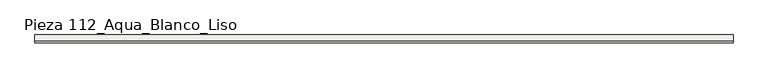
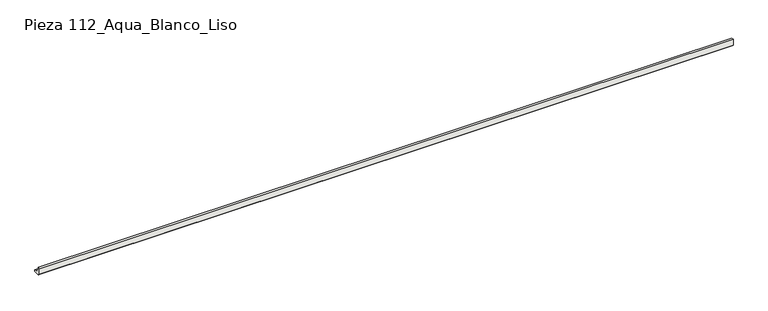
"""IFC4 building model written with IfcOpenShell, lengths in millimetres: slab geometry, ROSA GRES_112 : Pieza 112_Aqua_Blanco_Liso."""

from ifc_helpers import new_model, si_unit, point, frame, frame_2d, origin, place, context, project, spatial, polyline, circle_curve, trimmed, segment, composite_curve, outline, extrude, source, transform, mapped, element, save


def pieza_112_aqua_blanco_liso_38657134(model_context):
    return source(origin(), model_context, "Body", "SweptSolid", [
        extrude(outline(composite_curve([segment(polyline([(0.0, 8.7114978), (0.0, 40.0), (9.9734114, 40.0)]), True, "CONTINUOUS"), segment(trimmed(circle_curve(frame_2d((39.9955547, 39.9955547)), 30.0221435), [point((9.9734114, 40.0))], [point((40.0, 9.9734114))], True, "CARTESIAN"), True, "CONTINUOUS"), segment(polyline([(40.0, 9.9734114), (40.0, 0.0), (8.7114978, 0.0), (0.0, 8.7114978)]), True, "CONTINUOUS")], self_intersect=False)), frame((0.0, 0.0, 0.0), z_axis=(1.0, 0.0, 0.0), x_axis=(0.0, 1.0, 0.0)), (0.0, 0.0, 1.0), 3600.9734114),
    ])


if __name__ == "__main__":
    model = new_model("IFC4")
    model_context = context("Model", 3, world=origin())
    ifc_project = project(units=[si_unit("LENGTHUNIT", "METRE", prefix="MILLI")], contexts=[model_context])
    site = spatial("IfcSite", under=ifc_project)
    building = spatial("IfcBuilding", under=site)
    placement = place(None, origin())
    pieza_112_aqua_blanco_liso_shape = pieza_112_aqua_blanco_liso_38657134(model_context)
    element("IfcSlab", 1, ObjectType="ROSA GRES_112 : Pieza 112_Aqua_Blanco_Liso", at=placement, inside=building, context=model_context, shape_type="MappedRepresentation", body=[
        mapped(pieza_112_aqua_blanco_liso_shape, transform((0.0, 0.0, 0.0), x_axis=(1.0, 0.0, 0.0), y_axis=(0.0, 1.0, 0.0), z_axis=(0.0, 0.0, 1.0))),
    ])
    save(model, "model.ifc")
